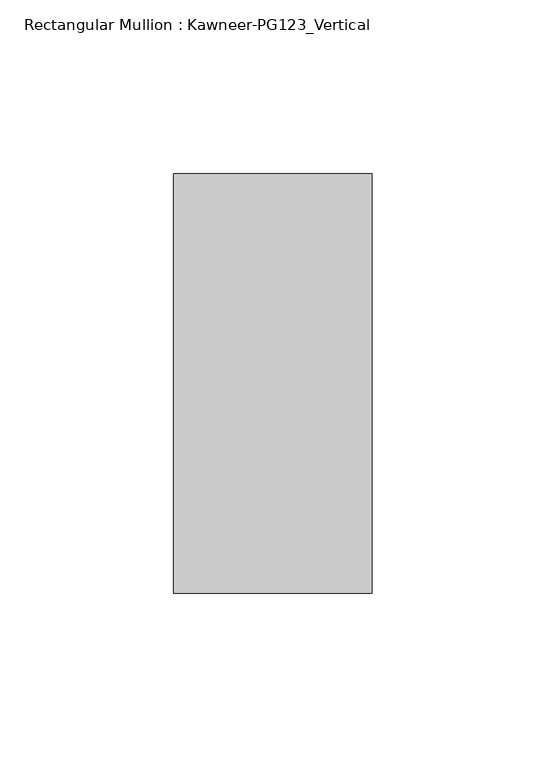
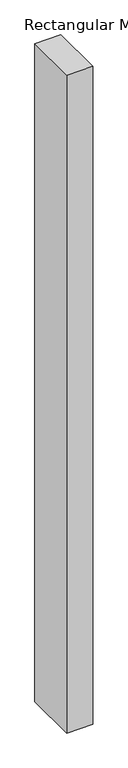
"""IFC4 building model written with IfcOpenShell, lengths in millimetres: member geometry, Rectangular Mullion : Kawneer-PG123_Vertical."""

from ifc_helpers import new_model, si_unit, frame, origin, place, context, project, spatial, polyline, outline, extrude, source, transform, mapped, element, save


def rectangular_mullion_kawneer_pg123_vertical_7be9c555(model_context):
    return source(origin(), model_context, "Body", "SweptSolid", [
        extrude(outline(polyline([(-28.575, 69.2403998), (28.575, 69.2403998), (28.575, -51.4096002), (-28.575, -51.4096002), (-28.575, 69.2403998)])), frame((0.0, 0.0, -1524.0), z_axis=(0.0, 0.0, 1.0), x_axis=(1.0, 0.0, 0.0)), (0.0, 0.0, 1.0), 1524.0),
    ])


if __name__ == "__main__":
    model = new_model("IFC4")
    model_context = context("Model", 3, world=origin())
    ifc_project = project(units=[si_unit("LENGTHUNIT", "METRE", prefix="MILLI")], contexts=[model_context])
    site = spatial("IfcSite", under=ifc_project)
    building = spatial("IfcBuilding", under=site)
    placement = place(None, origin())
    rectangular_mullion_kawneer_pg123_vertical_shape = rectangular_mullion_kawneer_pg123_vertical_7be9c555(model_context)
    element("IfcMember", 1, ObjectType="Rectangular Mullion : Kawneer-PG123_Vertical", at=placement, inside=building, context=model_context, shape_type="MappedRepresentation", body=[
        mapped(rectangular_mullion_kawneer_pg123_vertical_shape, transform((0.0, 0.0, 0.0), x_axis=(1.0, 0.0, 0.0), y_axis=(0.0, 1.0, 0.0), z_axis=(0.0, 0.0, 1.0))),
    ])
    save(model, "model.ifc")
